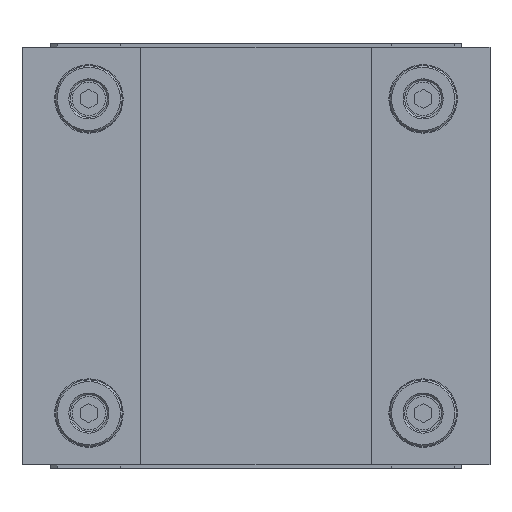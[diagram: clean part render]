
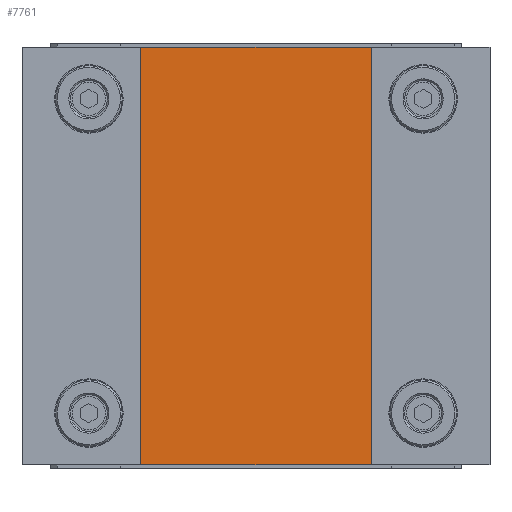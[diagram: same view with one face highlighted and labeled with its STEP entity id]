
A CAD part, front view. The second image highlights one B-rep face of the part: STEP entity #7761.
In plain terms, the highlighted planar face has unit normal (0, -1, 0).
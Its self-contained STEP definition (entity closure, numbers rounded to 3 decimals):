
#76 = FACE_OUTER_BOUND ( 'NONE', #7819, .T. ) ;
#77 = PLANE ( 'NONE',  #78 ) ;
#78 = AXIS2_PLACEMENT_3D ( 'NONE', #79, #80, #81 ) ;
#79 = CARTESIAN_POINT ( 'NONE',  ( 39., -13., 62.5 ) ) ;
#80 = DIRECTION ( 'NONE',  ( 0., 1., 0. ) ) ;
#81 = DIRECTION ( 'NONE',  ( -1., 0., 0. ) ) ;
#376 = CARTESIAN_POINT ( 'NONE',  ( 39., -13., 62.5 ) ) ;
#896 = LINE ( 'NONE', #897, #905 ) ;
#897 = CARTESIAN_POINT ( 'NONE',  ( 39., -13., -62.5 ) ) ;
#905 = VECTOR ( 'NONE', #906, 1000. ) ;
#906 = DIRECTION ( 'NONE',  ( 1., 0., 0. ) ) ;
#949 = LINE ( 'NONE', #950, #951 ) ;
#950 = CARTESIAN_POINT ( 'NONE',  ( 39., -13., 62.5 ) ) ;
#951 = VECTOR ( 'NONE', #952, 1000. ) ;
#952 = DIRECTION ( 'NONE',  ( 0., 0., -1. ) ) ;
#1677 = VERTEX_POINT ( 'NONE', #8900 ) ;
#2066 = LINE ( 'NONE', #2067, #2068 ) ;
#2067 = CARTESIAN_POINT ( 'NONE',  ( 39., -13., 62.5 ) ) ;
#2068 = VECTOR ( 'NONE', #2069, 1000. ) ;
#2069 = DIRECTION ( 'NONE',  ( 1., 0., 0. ) ) ;
#4806 = CARTESIAN_POINT ( 'NONE',  ( -39., -13., -62.5 ) ) ;
#5083 = LINE ( 'NONE', #5084, #5085 ) ;
#5084 = CARTESIAN_POINT ( 'NONE',  ( -39., -13., 62.5 ) ) ;
#5085 = VECTOR ( 'NONE', #5086, 1000. ) ;
#5086 = DIRECTION ( 'NONE',  ( 0., 0., -1. ) ) ;
#5186 = CARTESIAN_POINT ( 'NONE',  ( -39., -13., 62.5 ) ) ;
#5770 = VERTEX_POINT ( 'NONE', #376 ) ;
#6157 = EDGE_CURVE ( 'NONE', #5770, #1677, #949, .T. ) ;
#7260 = VERTEX_POINT ( 'NONE', #4806 ) ;
#7395 = EDGE_CURVE ( 'NONE', #7453, #7260, #5083, .T. ) ;
#7453 = VERTEX_POINT ( 'NONE', #5186 ) ;
#7761 = ADVANCED_FACE ( 'NONE', ( #76 ), #77, .F. ) ;
#7819 = EDGE_LOOP ( 'NONE', ( #7915, #8086, #8181, #8990 ) ) ;
#7915 = ORIENTED_EDGE ( 'NONE', *, *, #7978, .T. ) ;
#7978 = EDGE_CURVE ( 'NONE', #7260, #1677, #896, .T. ) ;
#8086 = ORIENTED_EDGE ( 'NONE', *, *, #6157, .F. ) ;
#8181 = ORIENTED_EDGE ( 'NONE', *, *, #8436, .F. ) ;
#8436 = EDGE_CURVE ( 'NONE', #7453, #5770, #2066, .T. ) ;
#8900 = CARTESIAN_POINT ( 'NONE',  ( 39., -13., -62.5 ) ) ;
#8990 = ORIENTED_EDGE ( 'NONE', *, *, #7395, .T. ) ;
